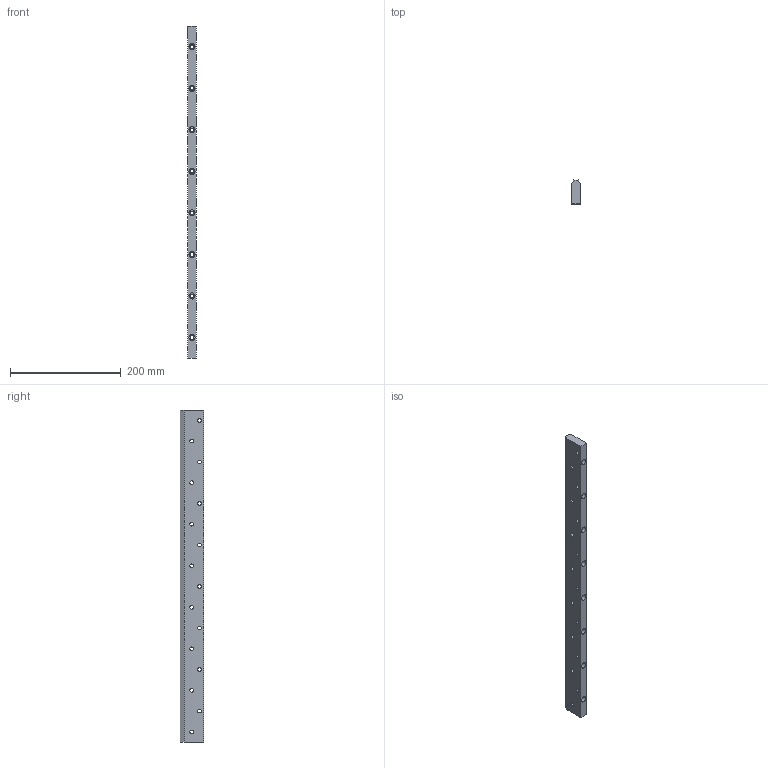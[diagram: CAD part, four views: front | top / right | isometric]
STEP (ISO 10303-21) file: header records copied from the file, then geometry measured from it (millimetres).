
FILE_DESCRIPTION (( 'STEP AP203' ), '1' );
FILE_NAME ('FKWU54-120.step', '2020-03-23T07:53:30', ( '' ), ( '' ), 'SwSTEP 2.0', 'SolidWorks 2019', '' );
FILE_SCHEMA (( 'CONFIG_CONTROL_DESIGN' ));
Length unit declared in the file: millimetre
Products named in the file (2): FKWU54-120
Bounding box: 15 x 42.82 x 599.5 mm (x, y, z)
Volume: 335302.9 mm3; surface area: 80807.9 mm2
Topology: 1 solids, 1 shells, 129 faces, 317 edges, 206 vertices
Faces by surface type: cylinder 96, plane 33
Entity records: 4130 total; most frequent: DIRECTION 739, CARTESIAN_POINT 702, ORIENTED_EDGE 634, EDGE_CURVE 317, AXIS2_PLACEMENT_3D 307, VERTEX_POINT 206, EDGE_LOOP 193, CIRCLE 176
